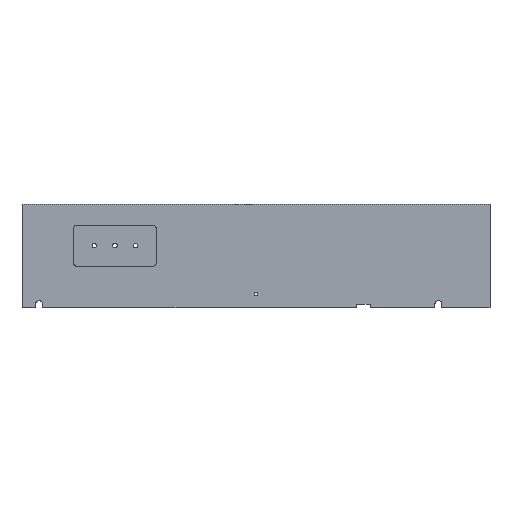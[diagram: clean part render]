
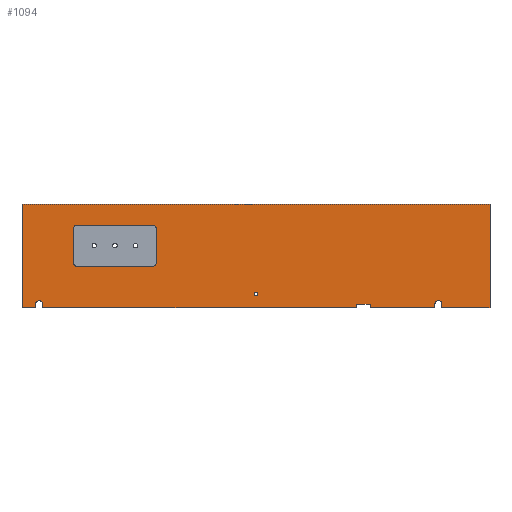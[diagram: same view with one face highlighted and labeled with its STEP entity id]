
A CAD part, top view. The second image highlights one B-rep face of the part: STEP entity #1094.
In plain terms, the highlighted planar face has unit normal (0, 0, 1).
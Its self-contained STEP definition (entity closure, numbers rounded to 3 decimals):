
#36=CIRCLE('',#1145,5.);
#38=CIRCLE('',#1149,2.5);
#39=CIRCLE('',#1150,5.);
#40=CIRCLE('',#1151,5.);
#41=CIRCLE('',#1152,5.);
#42=CIRCLE('',#1153,5.);
#43=CIRCLE('',#1154,5.);
#106=ORIENTED_EDGE('',*,*,#295,.T.);
#107=ORIENTED_EDGE('',*,*,#296,.F.);
#108=ORIENTED_EDGE('',*,*,#297,.T.);
#109=ORIENTED_EDGE('',*,*,#298,.F.);
#110=ORIENTED_EDGE('',*,*,#299,.T.);
#111=ORIENTED_EDGE('',*,*,#300,.F.);
#112=ORIENTED_EDGE('',*,*,#301,.T.);
#113=ORIENTED_EDGE('',*,*,#302,.F.);
#114=ORIENTED_EDGE('',*,*,#303,.T.);
#115=ORIENTED_EDGE('',*,*,#282,.F.);
#116=ORIENTED_EDGE('',*,*,#290,.T.);
#117=ORIENTED_EDGE('',*,*,#286,.T.);
#118=ORIENTED_EDGE('',*,*,#294,.T.);
#119=ORIENTED_EDGE('',*,*,#304,.F.);
#120=ORIENTED_EDGE('',*,*,#305,.T.);
#121=ORIENTED_EDGE('',*,*,#306,.F.);
#122=ORIENTED_EDGE('',*,*,#307,.T.);
#123=ORIENTED_EDGE('',*,*,#308,.F.);
#124=ORIENTED_EDGE('',*,*,#309,.F.);
#125=ORIENTED_EDGE('',*,*,#310,.T.);
#126=ORIENTED_EDGE('',*,*,#311,.T.);
#127=ORIENTED_EDGE('',*,*,#312,.T.);
#128=ORIENTED_EDGE('',*,*,#313,.T.);
#129=ORIENTED_EDGE('',*,*,#314,.T.);
#130=ORIENTED_EDGE('',*,*,#315,.T.);
#282=EDGE_CURVE('',#378,#379,#458,.T.);
#286=EDGE_CURVE('',#382,#383,#462,.T.);
#290=EDGE_CURVE('',#378,#382,#36,.T.);
#294=EDGE_CURVE('',#383,#387,#468,.T.);
#295=EDGE_CURVE('',#388,#388,#38,.T.);
#296=EDGE_CURVE('',#389,#390,#469,.T.);
#297=EDGE_CURVE('',#389,#391,#39,.T.);
#298=EDGE_CURVE('',#392,#391,#470,.T.);
#299=EDGE_CURVE('',#392,#393,#40,.T.);
#300=EDGE_CURVE('',#394,#393,#471,.T.);
#301=EDGE_CURVE('',#394,#395,#41,.T.);
#302=EDGE_CURVE('',#396,#395,#472,.T.);
#303=EDGE_CURVE('',#396,#390,#42,.T.);
#304=EDGE_CURVE('',#397,#387,#473,.T.);
#305=EDGE_CURVE('',#397,#398,#474,.T.);
#306=EDGE_CURVE('',#399,#398,#475,.T.);
#307=EDGE_CURVE('',#399,#400,#476,.T.);
#308=EDGE_CURVE('',#401,#400,#477,.T.);
#309=EDGE_CURVE('',#402,#401,#43,.F.);
#310=EDGE_CURVE('',#402,#403,#478,.T.);
#311=EDGE_CURVE('',#403,#404,#479,.T.);
#312=EDGE_CURVE('',#404,#405,#480,.T.);
#313=EDGE_CURVE('',#405,#406,#481,.T.);
#314=EDGE_CURVE('',#406,#407,#482,.T.);
#315=EDGE_CURVE('',#407,#379,#483,.T.);
#378=VERTEX_POINT('',#1456);
#379=VERTEX_POINT('',#1457);
#382=VERTEX_POINT('',#1465);
#383=VERTEX_POINT('',#1466);
#387=VERTEX_POINT('',#1479);
#388=VERTEX_POINT('',#1483);
#389=VERTEX_POINT('',#1485);
#390=VERTEX_POINT('',#1486);
#391=VERTEX_POINT('',#1488);
#392=VERTEX_POINT('',#1490);
#393=VERTEX_POINT('',#1492);
#394=VERTEX_POINT('',#1494);
#395=VERTEX_POINT('',#1496);
#396=VERTEX_POINT('',#1498);
#397=VERTEX_POINT('',#1501);
#398=VERTEX_POINT('',#1503);
#399=VERTEX_POINT('',#1505);
#400=VERTEX_POINT('',#1507);
#401=VERTEX_POINT('',#1509);
#402=VERTEX_POINT('',#1511);
#403=VERTEX_POINT('',#1513);
#404=VERTEX_POINT('',#1515);
#405=VERTEX_POINT('',#1517);
#406=VERTEX_POINT('',#1519);
#407=VERTEX_POINT('',#1521);
#458=LINE('',#1455,#518);
#462=LINE('',#1464,#522);
#468=LINE('',#1480,#528);
#469=LINE('',#1484,#529);
#470=LINE('',#1489,#530);
#471=LINE('',#1493,#531);
#472=LINE('',#1497,#532);
#473=LINE('',#1500,#533);
#474=LINE('',#1502,#534);
#475=LINE('',#1504,#535);
#476=LINE('',#1506,#536);
#477=LINE('',#1508,#537);
#478=LINE('',#1512,#538);
#479=LINE('',#1514,#539);
#480=LINE('',#1516,#540);
#481=LINE('',#1518,#541);
#482=LINE('',#1520,#542);
#483=LINE('',#1522,#543);
#518=VECTOR('',#1229,1000.);
#522=VECTOR('',#1235,1000.);
#528=VECTOR('',#1249,1000.);
#529=VECTOR('',#1254,1000.);
#530=VECTOR('',#1257,1000.);
#531=VECTOR('',#1260,1000.);
#532=VECTOR('',#1263,1000.);
#533=VECTOR('',#1266,1000.);
#534=VECTOR('',#1267,1000.);
#535=VECTOR('',#1268,1000.);
#536=VECTOR('',#1269,1000.);
#537=VECTOR('',#1270,1000.);
#538=VECTOR('',#1273,1000.);
#539=VECTOR('',#1274,1000.);
#540=VECTOR('',#1275,1000.);
#541=VECTOR('',#1276,1000.);
#542=VECTOR('',#1277,1000.);
#543=VECTOR('',#1278,1000.);
#582=EDGE_LOOP('',(#106));
#583=EDGE_LOOP('',(#107,#108,#109,#110,#111,#112,#113,#114));
#584=EDGE_LOOP('',(#115,#116,#117,#118,#119,#120,#121,#122,#123,#124,#125,
#126,#127,#128,#129,#130));
#658=FACE_BOUND('',#582,.T.);
#659=FACE_BOUND('',#583,.T.);
#660=FACE_BOUND('',#584,.T.);
#741=PLANE('',#1148);
#1094=ADVANCED_FACE('',(#658,#659,#660),#741,.F.);
#1145=AXIS2_PLACEMENT_3D('',#1473,#1241,#1242);
#1148=AXIS2_PLACEMENT_3D('',#1481,#1250,#1251);
#1149=AXIS2_PLACEMENT_3D('',#1482,#1252,#1253);
#1150=AXIS2_PLACEMENT_3D('',#1487,#1255,#1256);
#1151=AXIS2_PLACEMENT_3D('',#1491,#1258,#1259);
#1152=AXIS2_PLACEMENT_3D('',#1495,#1261,#1262);
#1153=AXIS2_PLACEMENT_3D('',#1499,#1264,#1265);
#1154=AXIS2_PLACEMENT_3D('',#1510,#1271,#1272);
#1229=DIRECTION('',(0.,-1.,0.));
#1235=DIRECTION('',(0.,-1.,0.));
#1241=DIRECTION('',(0.,0.,-1.));
#1242=DIRECTION('',(-1.,0.,0.));
#1249=DIRECTION('',(1.,0.,0.));
#1250=DIRECTION('',(0.,0.,-1.));
#1251=DIRECTION('',(-1.,0.,0.));
#1252=DIRECTION('',(0.,0.,-1.));
#1253=DIRECTION('',(-1.,0.,0.));
#1254=DIRECTION('',(0.,1.,0.));
#1255=DIRECTION('',(0.,0.,-1.));
#1256=DIRECTION('',(-1.,0.,0.));
#1257=DIRECTION('',(1.,0.,0.));
#1258=DIRECTION('',(0.,0.,-1.));
#1259=DIRECTION('',(-1.,0.,0.));
#1260=DIRECTION('',(0.,-1.,0.));
#1261=DIRECTION('',(0.,0.,-1.));
#1262=DIRECTION('',(-1.,0.,0.));
#1263=DIRECTION('',(-1.,0.,0.));
#1264=DIRECTION('',(0.,0.,-1.));
#1265=DIRECTION('',(-1.,0.,0.));
#1266=DIRECTION('',(0.,-1.,0.));
#1267=DIRECTION('',(1.,0.,0.));
#1268=DIRECTION('',(0.,1.,0.));
#1269=DIRECTION('',(1.,0.,0.));
#1270=DIRECTION('',(0.,-1.,0.));
#1271=DIRECTION('',(0.,0.,-1.));
#1272=DIRECTION('',(-1.,0.,0.));
#1273=DIRECTION('',(0.,-1.,0.));
#1274=DIRECTION('',(1.,0.,0.));
#1275=DIRECTION('',(0.,1.,0.));
#1276=DIRECTION('',(-1.,0.,0.));
#1277=DIRECTION('',(0.,-1.,0.));
#1278=DIRECTION('',(1.,0.,0.));
#1455=CARTESIAN_POINT('',(-320.,0.,10.));
#1456=CARTESIAN_POINT('',(-320.,-70.,10.));
#1457=CARTESIAN_POINT('',(-320.,-75.,10.));
#1464=CARTESIAN_POINT('',(-310.,0.,10.));
#1465=CARTESIAN_POINT('',(-310.,-70.,10.));
#1466=CARTESIAN_POINT('',(-310.,-75.,10.));
#1473=CARTESIAN_POINT('',(-315.,-70.,10.));
#1479=CARTESIAN_POINT('',(146.002,-75.,10.));
#1480=CARTESIAN_POINT('',(-340.,-75.,10.));
#1481=CARTESIAN_POINT('',(0.,0.,10.));
#1482=CARTESIAN_POINT('',(0.,-55.,10.));
#1483=CARTESIAN_POINT('',(-2.5,-55.,10.));
#1484=CARTESIAN_POINT('',(-145.,-15.,10.));
#1485=CARTESIAN_POINT('',(-145.,-10.,10.));
#1486=CARTESIAN_POINT('',(-145.,40.,10.));
#1487=CARTESIAN_POINT('',(-150.,-10.,10.));
#1488=CARTESIAN_POINT('',(-150.,-15.,10.));
#1489=CARTESIAN_POINT('',(-265.,-15.,10.));
#1490=CARTESIAN_POINT('',(-260.,-15.,10.));
#1491=CARTESIAN_POINT('',(-260.,-10.,10.));
#1492=CARTESIAN_POINT('',(-265.,-10.,10.));
#1493=CARTESIAN_POINT('',(-265.,45.,10.));
#1494=CARTESIAN_POINT('',(-265.,40.,10.));
#1495=CARTESIAN_POINT('',(-260.,40.,10.));
#1496=CARTESIAN_POINT('',(-260.,45.,10.));
#1497=CARTESIAN_POINT('',(-145.,45.,10.));
#1498=CARTESIAN_POINT('',(-150.,45.,10.));
#1499=CARTESIAN_POINT('',(-150.,40.,10.));
#1500=CARTESIAN_POINT('',(146.002,-75.,10.));
#1501=CARTESIAN_POINT('',(146.002,-70.,10.));
#1502=CARTESIAN_POINT('',(0.,-70.,10.));
#1503=CARTESIAN_POINT('',(166.002,-70.,10.));
#1504=CARTESIAN_POINT('',(166.002,-75.,10.));
#1505=CARTESIAN_POINT('',(166.002,-75.,10.));
#1506=CARTESIAN_POINT('',(-340.,-75.,10.));
#1507=CARTESIAN_POINT('',(260.,-75.,10.));
#1508=CARTESIAN_POINT('',(260.,0.,10.));
#1509=CARTESIAN_POINT('',(260.,-70.,10.));
#1510=CARTESIAN_POINT('',(265.,-70.,10.));
#1511=CARTESIAN_POINT('',(270.,-70.,10.));
#1512=CARTESIAN_POINT('',(270.,0.,10.));
#1513=CARTESIAN_POINT('',(270.,-75.,10.));
#1514=CARTESIAN_POINT('',(-340.,-75.,10.));
#1515=CARTESIAN_POINT('',(340.,-75.,10.));
#1516=CARTESIAN_POINT('',(340.,-75.,10.));
#1517=CARTESIAN_POINT('',(340.,75.,10.));
#1518=CARTESIAN_POINT('',(-340.,75.,10.));
#1519=CARTESIAN_POINT('',(-340.,75.,10.));
#1520=CARTESIAN_POINT('',(-340.,-75.,10.));
#1521=CARTESIAN_POINT('',(-340.,-75.,10.));
#1522=CARTESIAN_POINT('',(-340.,-75.,10.));
